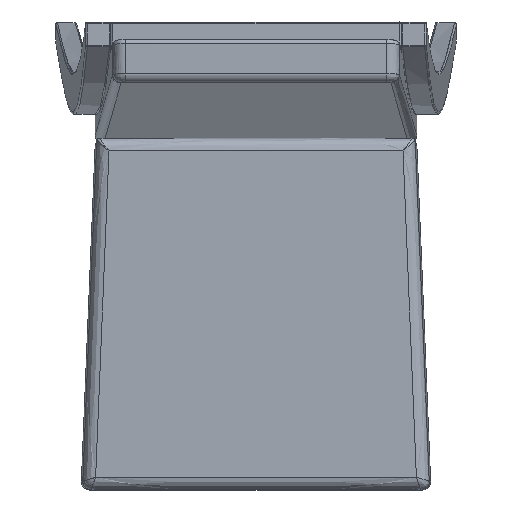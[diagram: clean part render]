
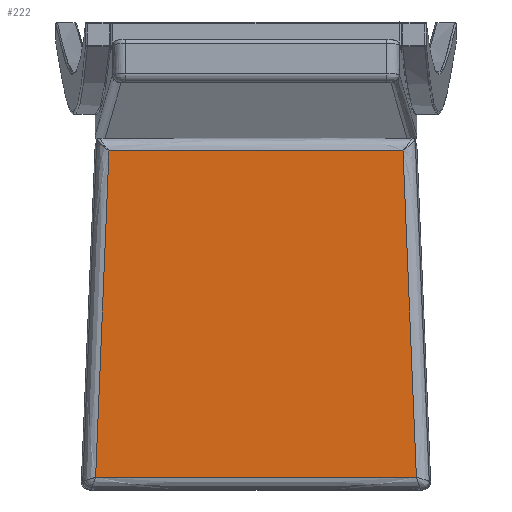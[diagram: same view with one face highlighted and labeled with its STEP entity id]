
A CAD part, top view. The second image highlights one B-rep face of the part: STEP entity #222.
In plain terms, the highlighted planar face has unit normal (0, 0, 1).
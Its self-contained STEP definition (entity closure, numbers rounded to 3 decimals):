
#222=ADVANCED_FACE('',(#522),#4027,.T.);
#522=FACE_OUTER_BOUND('',#822,.T.);
#822=EDGE_LOOP('',(#1645,#1646,#1647,#1648));
#1645=ORIENTED_EDGE('',*,*,#2515,.F.);
#1646=ORIENTED_EDGE('',*,*,#2505,.F.);
#1647=ORIENTED_EDGE('',*,*,#2524,.F.);
#1648=ORIENTED_EDGE('',*,*,#2520,.F.);
#2505=EDGE_CURVE('',#3621,#3618,#3287,.T.);
#2515=EDGE_CURVE('',#3618,#3623,#3294,.T.);
#2520=EDGE_CURVE('',#3623,#3624,#3297,.T.);
#2524=EDGE_CURVE('',#3624,#3621,#3301,.T.);
#3287=B_SPLINE_CURVE_WITH_KNOTS('',1,(#10756,#10757),.UNSPECIFIED.,.F.,
 .F.,(2,2),(0.,380.161),.UNSPECIFIED.);
#3294=B_SPLINE_CURVE_WITH_KNOTS('',1,(#10890,#10891),.UNSPECIFIED.,.F.,
 .F.,(2,2),(0.,387.271),.UNSPECIFIED.);
#3297=B_SPLINE_CURVE_WITH_KNOTS('',1,(#10902,#10903),.UNSPECIFIED.,.F.,
 .F.,(2,2),(0.,348.391),.UNSPECIFIED.);
#3301=B_SPLINE_CURVE_WITH_KNOTS('',1,(#11084,#11085),.UNSPECIFIED.,.F.,
 .F.,(2,2),(0.,387.271),.UNSPECIFIED.);
#3618=VERTEX_POINT('',#10489);
#3621=VERTEX_POINT('',#10492);
#3623=VERTEX_POINT('',#10494);
#3624=VERTEX_POINT('',#10495);
#4027=PLANE('',#4112);
#4112=AXIS2_PLACEMENT_3D('',#10306,#4181,$);
#4181=DIRECTION('',(0.,0.,1.));
#10306=CARTESIAN_POINT('',(-228.098,-578.696,455.));
#10489=CARTESIAN_POINT('',(-190.08,-540.,455.));
#10492=CARTESIAN_POINT('',(190.08,-540.,455.));
#10494=CARTESIAN_POINT('',(-174.195,-153.055,455.));
#10495=CARTESIAN_POINT('',(174.195,-153.055,455.));
#10756=CARTESIAN_POINT('',(190.08,-540.,455.));
#10757=CARTESIAN_POINT('',(-190.08,-540.,455.));
#10890=CARTESIAN_POINT('',(-190.08,-540.,455.));
#10891=CARTESIAN_POINT('',(-174.195,-153.055,455.));
#10902=CARTESIAN_POINT('',(-174.195,-153.055,455.));
#10903=CARTESIAN_POINT('',(174.195,-153.055,455.));
#11084=CARTESIAN_POINT('',(174.195,-153.055,455.));
#11085=CARTESIAN_POINT('',(190.08,-540.,455.));
